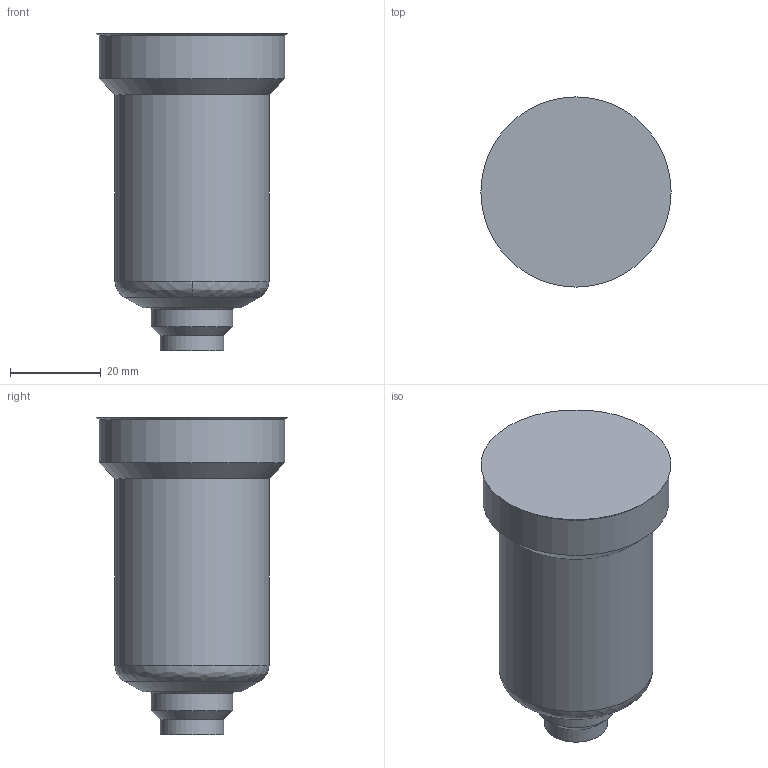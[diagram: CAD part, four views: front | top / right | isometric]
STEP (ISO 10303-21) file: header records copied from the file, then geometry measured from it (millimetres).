
FILE_DESCRIPTION(('STEP AP214'),'1');
FILE_NAME('SEDE FLM7-C.stp','2018-06-12T09:02:01',(' '),(' '),'Spatial InterOp 3D',' ',' ');
FILE_SCHEMA(('AUTOMOTIVE_DESIGN { 1 0 10303 214 1 1 1 1 }'));
Length unit declared in the file: millimetre
Products named in the file (1): 1
Bounding box: 42 x 42 x 70 mm (x, y, z)
Volume: 60687 mm3; surface area: 9282.6 mm2
Topology: 1 solids, 1 shells, 14 faces, 28 edges, 17 vertices
Faces by surface type: cone 5, cylinder 4, plane 3, bspline 2
Full cylindrical faces by diameter (mm): 14 x1, 18 x1, 34 x1, 41 x1
Entity records: 447 total; most frequent: CARTESIAN_POINT 75, DIRECTION 58, ORIENTED_EDGE 32, AXIS2_PLACEMENT_3D 29, EDGE_LOOP 24, FACE_OUTER_BOUND 18, EDGE_CURVE 16, CIRCLE 16
